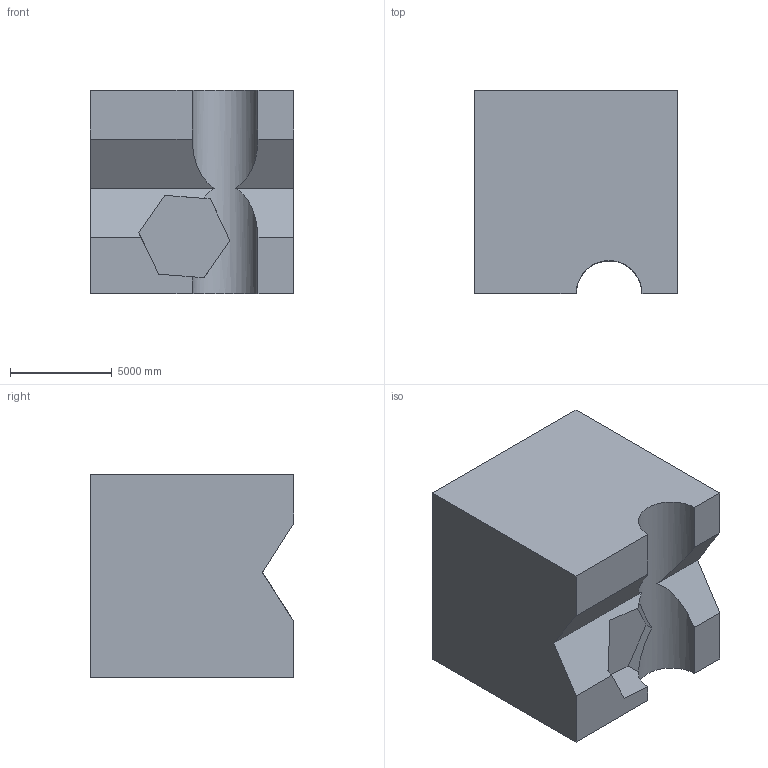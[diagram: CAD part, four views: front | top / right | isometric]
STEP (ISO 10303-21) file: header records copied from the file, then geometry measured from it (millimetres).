
FILE_DESCRIPTION (( 'STEP AP203' ), '1' );
FILE_NAME ('1205.STEP', '2022-08-18T13:10:47', ( 'user' ), ( '' ), 'SwSTEP 2.0', 'SolidWorks 2021', '' );
FILE_SCHEMA (( 'CONFIG_CONTROL_DESIGN' ));
Length unit declared in the file: centimetre
Products named in the file (1): 1205
Bounding box: 10000 x 10000 x 10000 mm (x, y, z)
Volume: 915299544971.9 mm3; surface area: 615203523.6 mm2
Topology: 1 solids, 1 shells, 21 faces, 57 edges, 38 vertices
Faces by surface type: plane 20, cylinder 1
Entity records: 730 total; most frequent: CARTESIAN_POINT 141, ORIENTED_EDGE 114, DIRECTION 95, EDGE_CURVE 57, VECTOR 47, LINE 47, VERTEX_POINT 38, AXIS2_PLACEMENT_3D 24
